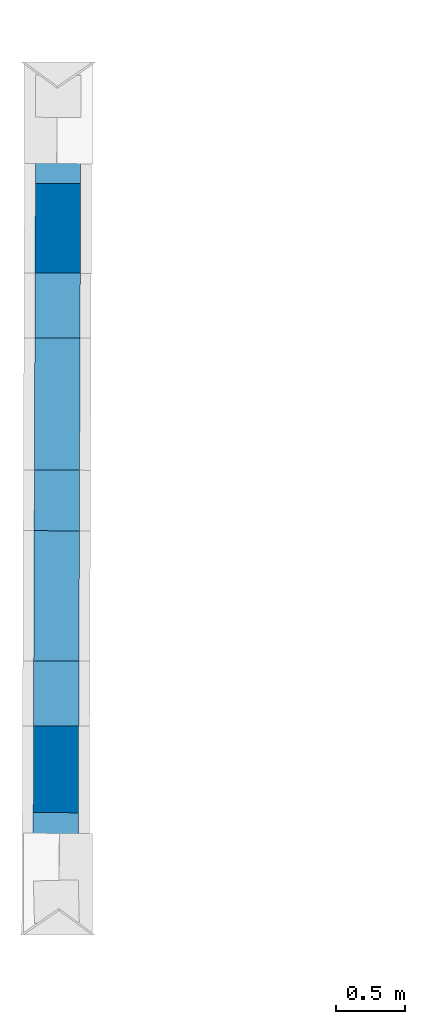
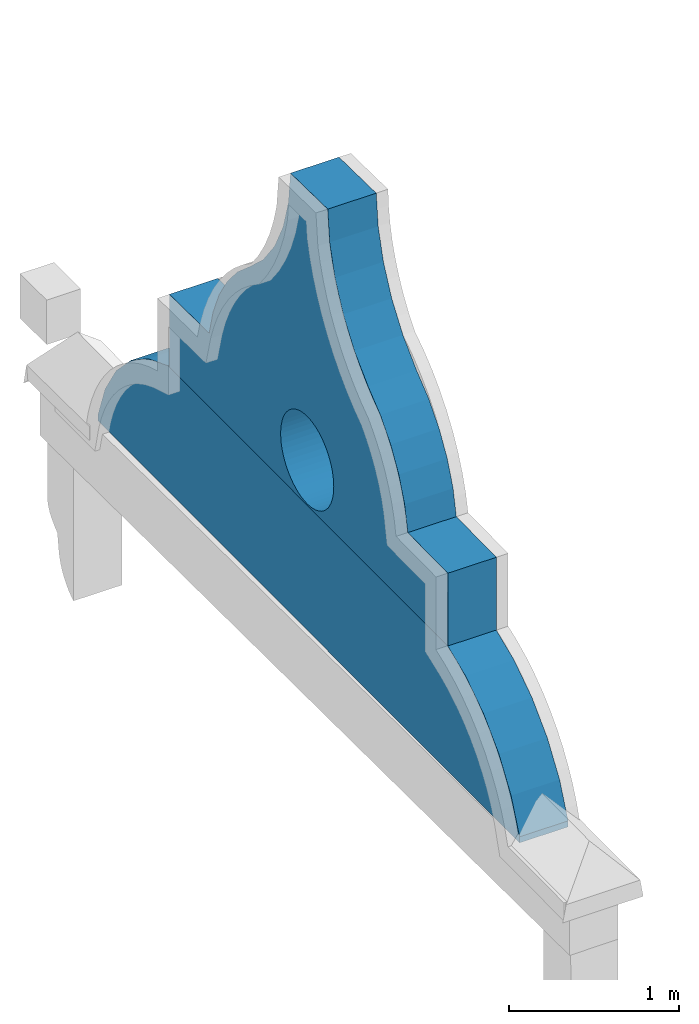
# One storey, part 8 of 39: 2 walls, 1 opening.
"""IFC2X3 building model written with IfcOpenShell, lengths in centimetres."""

from ifc_helpers import new_model, entity, si_unit, converted_unit, direction, frame, frame_2d, origin, origin_with_axes, origin_2d_with_axis, place, context, subcontext, project, spatial, polyline, circle_curve, rectangle, outline, extrude, clip, bounded_halfspace, shape, material, layer, layer_set, layer_usage, type_object, element, save


model = new_model("IFC2X3")

# Units and contexts
model_context = context("Model", 3, precision=0.0001, world=origin(), true_north=direction((0.225632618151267, 0.974212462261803, 0.0)))
body_context = subcontext(model_context, "Body", "Model", "MODEL_VIEW")
footprint_context = subcontext(model_context, "FootPrint", "Model", "MODEL_VIEW")
profile_context = subcontext(model_context, "Profile", "Model", "MODEL_VIEW")
ifc_project = project(units=[si_unit("LENGTHUNIT", "METRE", prefix="CENTI"), si_unit("AREAUNIT", "SQUARE_METRE", prefix="CENTI"), si_unit("VOLUMEUNIT", "CUBIC_METRE", prefix="CENTI"), converted_unit("PLANEANGLEUNIT", "DEGREE", entity("IfcRatioMeasure", 0.0174532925), si_unit("PLANEANGLEUNIT", "RADIAN"), dimensions=[0, 0, 0, 0, 0, 0, 0])], contexts=[model_context])

# Site, building, storey
site_placement = place(None, origin_with_axes())
site = spatial("IfcSite", under=ifc_project, at=site_placement, Name="Default Site", CompositionType="ELEMENT")
building_placement = place(site_placement, origin_with_axes())
building = spatial("IfcBuilding", under=site, at=building_placement, Name="Default Building", CompositionType="ELEMENT")
storey_placement = place(building_placement, frame((0.0, 0.0, 1088.91037418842), z_axis=(0.0, 0.0, 1.0), x_axis=(1.0, 0.0, 0.0)))
storey = spatial("IfcBuildingStorey", under=building, at=storey_placement, Name="Mezzanine", CompositionType="ELEMENT", Elevation=1088.91037418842)

# Wall
ifc_material = material(Name="<aucun>")
ifc_layer = layer(ifc_material, 33.0)
ifc_layer_set = layer_set([ifc_layer], Name="default")
ifc_layer_usage_1 = layer_usage(ifc_layer_set, "AXIS2", "POSITIVE", -16.5)
wall_type = type_object("IfcWallType", Name="default 330", PredefinedType="NOTDEFINED", material=ifc_layer_set)
wall_1_placement = place(storey_placement, frame((-1345.57775287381, -314.995326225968, 75.0616258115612), z_axis=(0.0, 0.0, 1.0), x_axis=(0.00339717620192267, 0.999994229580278, 0.0)))
solid_1 = clip(clip(clip(clip(clip(clip(clip(clip(extrude(rectangle(XDim=500.152875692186, YDim=33.0000000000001, at=origin_2d_with_axis()), frame((250.076437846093, -1.77635683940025e-13, -5.32907051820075e-13), z_axis=(0.0, 0.0, 1.0), x_axis=(1.0, -4.65773253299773e-16, 0.0)), (0.0, 0.0, 1.0), 91.0125669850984), bounded_halfspace(frame((10.1509561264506, -15.9218664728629, 27.9003535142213), z_axis=(0.918395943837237, 7.66314095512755e-16, -0.395662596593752), x_axis=(0.39566039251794, 0.00333783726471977, 0.91839082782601)), True, frame((10.1509561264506, -15.9218664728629, 27.9003535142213), z_axis=(0.0, 0.0, 1.0), x_axis=(1.0, 0.0, 0.0)), polyline([(-10.1509561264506, -0.0856346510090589), (0.0, 0.0), (-4.44089209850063e-14, 32.421866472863), (-10.1509561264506, 32.421866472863), (-10.1509561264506, -0.0856346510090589)]))), bounded_halfspace(frame((491.783989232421, -11.8587539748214, 27.8705851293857), z_axis=(-0.942363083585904, -2.63417759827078e-15, -0.334592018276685), x_axis=(-0.334590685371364, -0.00282264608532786, 0.942359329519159)), True, frame((491.783989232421, -11.8587539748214, 27.8705851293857), z_axis=(0.0, 0.0, 1.0), x_axis=(1.0, 0.0, 0.0)), polyline([(8.88178419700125e-14, -4.6412460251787), (8.36888645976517, -4.64124602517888), (8.36888645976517, 0.0706009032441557), (0.0, 0.0), (8.88178419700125e-14, -4.6412460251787)]))), bounded_halfspace(frame((491.783989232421, -11.8587539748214, 27.8705851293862), z_axis=(-0.942363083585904, -2.63417759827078e-15, -0.334592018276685), x_axis=(-0.334592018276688, 6.1034077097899e-15, 0.942363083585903)), True, frame((491.783989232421, -11.8587539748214, 27.8705851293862), z_axis=(0.0, 0.0, 1.0), x_axis=(1.0, 0.0, 0.0)), polyline([(8.88178419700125e-14, 0.0), (8.36888645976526, 0.0706009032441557), (8.36888645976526, 28.3587539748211), (8.88178419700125e-14, 28.3587539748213), (8.88178419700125e-14, 0.0)]))), bounded_halfspace(frame((24.6368279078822, 16.4999999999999, 49.0750709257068), z_axis=(0.825345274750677, -3.90312782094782e-17, -0.56462835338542), x_axis=(-0.56462835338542, 2.68882138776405e-17, -0.825345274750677)), True, frame((24.6368279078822, 16.4999999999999, 49.0750709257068), z_axis=(0.0, 0.0, 1.0), x_axis=(1.0, 0.0, 0.0)), polyline([(-14.4858717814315, -32.4218664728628), (0.0, -32.299661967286), (0.0, -1.77635683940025e-13), (-14.4858717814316, 1.77635683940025e-13), (-14.4858717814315, -32.4218664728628)]))), bounded_halfspace(frame((42.9186271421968, -15.6454345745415, 67.0746530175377), z_axis=(0.701585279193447, -2.90045765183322e-15, -0.712585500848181), x_axis=(-0.71258550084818, 2.95206567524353e-15, -0.701585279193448)), True, frame((42.9186271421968, -15.6454345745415, 67.0746530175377), z_axis=(0.0, 0.0, 1.0), x_axis=(1.0, 0.0, 0.0)), polyline([(-18.2817992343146, -0.154227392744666), (0.0, 0.0), (-4.44089209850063e-14, 32.1454345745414), (-18.2817992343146, 32.1454345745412), (-18.2817992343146, -0.154227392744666)]))), bounded_halfspace(frame((64.3161273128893, 16.4999999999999, 81.2293739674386), z_axis=(0.551720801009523, -2.03613167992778e-16, -0.834028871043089), x_axis=(-0.83402887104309, 3.0140820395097e-16, -0.551720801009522)), True, frame((64.3161273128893, 16.4999999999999, 81.2293739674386), z_axis=(0.0, 0.0, 1.0), x_axis=(1.0, 0.0, 0.0)), polyline([(-21.3975001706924, -32.1454345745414), (4.44089209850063e-14, -31.9649227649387), (0.0, 0.0), (-21.3975001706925, 0.0), (-21.3975001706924, -32.1454345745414)]))), bounded_halfspace(frame((88.0331733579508, 16.4999999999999, 91.0125669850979), z_axis=(0.381327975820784, 1.32532873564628e-15, -0.924439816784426), x_axis=(-0.924439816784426, -3.21227419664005e-15, -0.381327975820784)), True, frame((88.0331733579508, 16.4999999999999, 91.0125669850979), z_axis=(0.0, 0.0, 1.0), x_axis=(1.0, 0.0, 0.0)), polyline([(-23.7170460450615, -31.9649227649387), (0.0, -31.7648429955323), (0.0, -1.77635683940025e-13), (-23.7170460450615, 0.0), (-23.7170460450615, -31.9649227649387)]))), bounded_halfspace(frame((88.0331733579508, 16.4999999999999, 91.0125669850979), z_axis=(-0.00245696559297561, 2.50552345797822e-18, -0.999996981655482), x_axis=(-0.999996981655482, 1.57426155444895e-16, 0.00245696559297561)), True, frame((88.0331733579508, 16.4999999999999, 91.0125669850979), z_axis=(0.0, 0.0, 1.0), x_axis=(1.0, 0.0, 0.0)), polyline([(0.0, -31.7648429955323), (206.059851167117, -30.0264980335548), (206.059851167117, -1.77635683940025e-13), (0.0, -1.77635683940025e-13), (0.0, -31.7648429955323)])))
solid_2 = clip(clip(clip(clip(clip(clip(clip(clip(solid_1, bounded_halfspace(frame((294.093024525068, 16.4999999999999, 90.5062834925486), z_axis=(-0.00434547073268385, 3.42540123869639e-18, -0.999990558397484), x_axis=(-0.999990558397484, 7.9060022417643e-16, 0.0043454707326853)), True, frame((294.093024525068, 16.4999999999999, 90.5062834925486), z_axis=(0.0, 0.0, 1.0), x_axis=(1.0, 0.0, 0.0)), polyline([(-4.44089209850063e-14, -30.0264980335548), (122.926897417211, -28.9894723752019), (122.926897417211, 0.0), (4.44089209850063e-14, -1.77635683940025e-13), (-4.44089209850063e-14, -30.0264980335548)]))), bounded_halfspace(frame((417.019921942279, 16.4999999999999, 89.9721032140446), z_axis=(-0.362784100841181, 1.12518501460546e-15, -0.931873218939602), x_axis=(-0.931873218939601, 2.86663054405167e-15, 0.362784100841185)), True, frame((417.019921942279, 16.4999999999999, 89.9721032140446), z_axis=(0.0, 0.0, 1.0), x_axis=(1.0, 0.0, 0.0)), polyline([(8.88178419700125e-14, -28.9894723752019), (23.3082104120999, -28.7928415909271), (23.3082104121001, -3.5527136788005e-13), (8.88178419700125e-14, 0.0), (8.88178419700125e-14, -28.9894723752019)]))), bounded_halfspace(frame((440.328132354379, -12.292841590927, 80.898070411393), z_axis=(-0.552904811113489, -1.39016402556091e-15, -0.833244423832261), x_axis=(-0.833244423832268, -2.09251019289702e-15, 0.552904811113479)), True, frame((440.328132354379, -12.292841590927, 80.898070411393), z_axis=(0.0, 0.0, 1.0), x_axis=(1.0, 0.0, 0.0)), polyline([(8.88178419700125e-14, -1.77635683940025e-13), (20.8412860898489, 0.175819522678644), (20.841286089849, 28.7928415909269), (3.5527136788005e-13, 28.7928415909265), (8.88178419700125e-14, -1.77635683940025e-13)]))), bounded_halfspace(frame((461.169418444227, -12.1170220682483, 67.0686981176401), z_axis=(-0.717661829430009, -6.24066770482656e-16, -0.696391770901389), x_axis=(-0.696391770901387, -5.96744875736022e-16, 0.717661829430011)), True, frame((461.169418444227, -12.1170220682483, 67.0686981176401), z_axis=(0.0, 0.0, 1.0), x_axis=(1.0, 0.0, 0.0)), polyline([(8.88178419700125e-14, 0.0), (17.4182985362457, 0.146942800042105), (17.4182985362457, 28.6170220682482), (2.66453525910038e-13, 28.6170220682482), (8.88178419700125e-14, 0.0)]))), bounded_halfspace(frame((478.587716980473, 16.4999999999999, 49.1183883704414), z_axis=(-0.84949717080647, 8.40863836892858e-15, -0.527593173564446), x_axis=(-0.527593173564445, -1.87697080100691e-15, 0.84949717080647)), True, frame((478.587716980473, 16.4999999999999, 49.1183883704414), z_axis=(0.0, 0.0, 1.0), x_axis=(1.0, 0.0, 0.0)), polyline([(8.88178419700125e-14, -28.4700792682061), (13.1962722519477, -28.3587539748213), (13.1962722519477, 0.0), (8.88178419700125e-14, 0.0), (8.88178419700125e-14, -28.4700792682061)]))), bounded_halfspace(frame((10.1509561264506, -16.5000000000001, 27.9003535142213), z_axis=(0.918395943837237, 7.66314095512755e-16, -0.395662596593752), x_axis=(0.395662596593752, 3.2981430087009e-16, 0.918395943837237)), True, frame((10.1509561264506, -16.5000000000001, 27.9003535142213), z_axis=(0.0, 0.0, 1.0), x_axis=(1.0, 0.0, 0.0)), polyline([(-10.1509561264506, 3.5527136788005e-13), (0.0, 0.0), (0.0, 0.578133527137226), (-10.1509561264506, 0.492498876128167), (-10.1509561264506, 3.5527136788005e-13)]))), bounded_halfspace(frame((24.6368279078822, -16.4999999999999, 49.0750709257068), z_axis=(0.825345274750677, -3.90312782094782e-17, -0.56462835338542), x_axis=(0.56462835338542, 6.89704370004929e-15, 0.825345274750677)), True, frame((24.6368279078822, -16.4999999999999, 49.0750709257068), z_axis=(0.0, 0.0, 1.0), x_axis=(1.0, 0.0, 0.0)), polyline([(-14.4858717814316, -1.77635683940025e-13), (0.0, 0.0), (4.44089209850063e-14, 0.70033803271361), (-14.4858717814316, 0.578133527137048), (-14.4858717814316, -1.77635683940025e-13)]))), bounded_halfspace(frame((42.9186271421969, -15.6454345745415, 67.0746530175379), z_axis=(0.701585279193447, -2.90045765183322e-15, -0.712585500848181), x_axis=(0.712585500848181, -2.94599414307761e-15, 0.701585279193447)), True, frame((42.9186271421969, -15.6454345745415, 67.0746530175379), z_axis=(0.0, 0.0, 1.0), x_axis=(1.0, 0.0, 0.0)), polyline([(-18.2817992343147, -0.854565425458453), (-4.44089209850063e-14, -0.854565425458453), (0.0, 0.0), (-18.2817992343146, -0.154227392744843), (-18.2817992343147, -0.854565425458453)])))
element("IfcWallStandardCase", 1, at=wall_1_placement, inside=storey, type_object=wall_type, material=ifc_layer_usage_1, Name="Enveloppe 965017", context=body_context, shape_type="Clipping", body=[
    clip(clip(clip(clip(clip(clip(clip(clip(solid_2, bounded_halfspace(frame((64.3161273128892, -16.4999999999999, 81.2293739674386), z_axis=(0.551720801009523, -2.03613167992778e-16, -0.834028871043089), x_axis=(0.834028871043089, -3.12683906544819e-16, 0.551720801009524)), True, frame((64.3161273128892, -16.4999999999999, 81.2293739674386), z_axis=(0.0, 0.0, 1.0), x_axis=(1.0, 0.0, 0.0)), polyline([(-21.3975001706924, 0.0), (0.0, 0.0), (8.88178419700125e-14, 1.03507723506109), (-21.3975001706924, 0.854565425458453), (-21.3975001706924, 0.0)]))), bounded_halfspace(frame((88.0331733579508, -15.2648429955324, 91.0125669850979), z_axis=(0.381327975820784, 1.32532873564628e-15, -0.924439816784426), x_axis=(-0.924411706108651, -0.00779844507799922, -0.381316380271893)), True, frame((88.0331733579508, -15.2648429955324, 91.0125669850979), z_axis=(0.0, 0.0, 1.0), x_axis=(1.0, 0.0, 0.0)), polyline([(-23.7170460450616, -1.23515700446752), (0.0, -1.23515700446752), (4.44089209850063e-14, 0.0), (-23.7170460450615, -0.200079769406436), (-23.7170460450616, -1.23515700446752)]))), bounded_halfspace(frame((88.0331733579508, -16.4999999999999, 91.0125669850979), z_axis=(-0.00245696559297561, 2.50552345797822e-18, -0.999996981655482), x_axis=(0.999996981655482, -1.01958372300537e-15, -0.00245696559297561)), True, frame((88.0331733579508, -16.4999999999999, 91.0125669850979), z_axis=(0.0, 0.0, 1.0), x_axis=(1.0, 0.0, 0.0)), polyline([(0.0, 0.0), (206.059851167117, -1.77635683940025e-13), (206.059851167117, 2.97350196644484), (4.44089209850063e-14, 1.23515700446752), (0.0, 0.0)]))), bounded_halfspace(frame((294.093024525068, -16.5000000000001, 90.5062834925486), z_axis=(-0.00434547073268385, 3.42540123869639e-18, -0.999990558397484), x_axis=(0.999990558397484, -7.9060022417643e-16, -0.0043454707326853)), True, frame((294.093024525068, -16.5000000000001, 90.5062834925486), z_axis=(0.0, 0.0, 1.0), x_axis=(1.0, 0.0, 0.0)), polyline([(4.44089209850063e-14, 0.0), (122.926897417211, -3.5527136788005e-13), (122.926897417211, 4.01052762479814), (4.44089209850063e-14, 2.97350196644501), (4.44089209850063e-14, 0.0)]))), bounded_halfspace(frame((417.019921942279, -12.4894723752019, 89.9721032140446), z_axis=(-0.362784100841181, 1.12518501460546e-15, -0.931873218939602), x_axis=(-0.931844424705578, -0.00786114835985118, 0.362772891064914)), True, frame((417.019921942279, -12.4894723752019, 89.9721032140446), z_axis=(0.0, 0.0, 1.0), x_axis=(1.0, 0.0, 0.0)), polyline([(0.0, -4.0105276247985), (23.3082104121, -4.01052762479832), (23.3082104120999, 0.196630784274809), (8.88178419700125e-14, 0.0), (0.0, -4.0105276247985)]))), bounded_halfspace(frame((440.328132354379, -12.292841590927, 80.898070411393), z_axis=(-0.552904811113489, -1.39016402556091e-15, -0.833244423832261), x_axis=(-0.833223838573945, -0.00702917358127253, 0.552891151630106)), True, frame((440.328132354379, -12.292841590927, 80.898070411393), z_axis=(0.0, 0.0, 1.0), x_axis=(1.0, 0.0, 0.0)), polyline([(1.77635683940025e-13, -4.20715840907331), (20.8412860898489, -4.20715840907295), (20.8412860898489, 0.175819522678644), (8.88178419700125e-14, -1.77635683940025e-13), (1.77635683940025e-13, -4.20715840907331)]))), bounded_halfspace(frame((461.169418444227, -12.1170220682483, 67.0686981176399), z_axis=(-0.717661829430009, -6.24066770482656e-16, -0.696391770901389), x_axis=(-0.696379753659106, -0.00587474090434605, 0.717649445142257)), True, frame((461.169418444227, -12.1170220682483, 67.0686981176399), z_axis=(0.0, 0.0, 1.0), x_axis=(1.0, 0.0, 0.0)), polyline([(8.88178419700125e-14, -4.3829779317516), (17.4182985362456, -4.38297793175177), (17.4182985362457, 0.146942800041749), (8.88178419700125e-14, 0.0), (8.88178419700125e-14, -4.3829779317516)]))), bounded_halfspace(frame((478.587716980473, -11.9700792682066, 49.1183883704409), z_axis=(-0.84949717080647, 8.40863836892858e-15, -0.527593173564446), x_axis=(-0.527587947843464, -0.00445079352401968, 0.84948875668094)), True, frame((478.587716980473, -11.9700792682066, 49.1183883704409), z_axis=(0.0, 0.0, 1.0), x_axis=(1.0, 0.0, 0.0)), polyline([(0.0, -4.52992073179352), (13.1962722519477, -4.52992073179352), (13.1962722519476, 0.111325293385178), (8.88178419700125e-14, 0.0), (0.0, -4.52992073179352)]))),
])

# Wall, opening
ifc_layer_usage_2 = layer_usage(ifc_layer_set, "AXIS2", "POSITIVE", -16.5)
wall_2_placement = place(storey_placement, frame((-1345.28841599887, -229.826000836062, 165.0), z_axis=(0.0, 0.0, 1.0), x_axis=(0.00339717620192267, 0.999994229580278, 0.0)))
solid_3 = clip(clip(clip(clip(clip(clip(clip(clip(extrude(rectangle(XDim=330.392397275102, YDim=33.0000000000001, at=origin_2d_with_axis()), frame((165.196198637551, -1.77635683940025e-13, 0.0), z_axis=(0.0, 0.0, 1.0), x_axis=(1.0, -1.36782946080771e-15, 0.0)), (0.0, 0.0, 1.0), 227.900230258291), bounded_halfspace(frame((47.4951458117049, -16.5000000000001, 52.7933686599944), z_axis=(0.00845512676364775, -1.02186054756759e-17, -0.999964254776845), x_axis=(0.999964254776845, -1.20606649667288e-15, 0.00845512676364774)), True, frame((47.4951458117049, -16.5000000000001, 52.7933686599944), z_axis=(0.0, 0.0, 1.0), x_axis=(1.0, 0.0, 0.0)), polyline([(-47.4951458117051, 3.5527136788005e-13), (0.0, 0.0), (2.22044604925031e-14, 33.0000000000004), (-47.4951458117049, 33.0000000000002), (-47.4951458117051, 3.5527136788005e-13)]))), bounded_halfspace(frame((283.062579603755, 16.4999999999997, 53.2006430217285), z_axis=(-0.0170874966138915, 1.68051336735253e-18, -0.999853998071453), x_axis=(-0.999853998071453, 8.19656842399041e-17, 0.0170874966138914)), True, frame((283.062579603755, 16.4999999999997, 53.2006430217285), z_axis=(0.0, 0.0, 1.0), x_axis=(1.0, 0.0, 0.0)), polyline([(0.0, -32.9999999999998), (47.329817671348, -33.0000000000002), (47.3298176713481, 1.77635683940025e-13), (4.44089209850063e-14, 1.77635683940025e-13), (0.0, -32.9999999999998)]))), bounded_halfspace(frame((51.3294557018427, 16.5000000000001, 70.89659254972), z_axis=(0.978297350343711, 2.17972341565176e-14, -0.207205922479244), x_axis=(0.207205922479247, -4.99079944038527e-15, 0.97829735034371)), True, frame((51.3294557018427, 16.5000000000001, 70.89659254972), z_axis=(0.0, 0.0, 1.0), x_axis=(1.0, 0.0, 0.0)), polyline([(-3.83430989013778, -33.0000000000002), (-2.22044604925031e-14, -33.0), (2.22044604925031e-14, 1.77635683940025e-13), (-3.83430989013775, 1.77635683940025e-13), (-3.83430989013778, -33.0000000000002)]))), bounded_halfspace(frame((58.1924685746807, -16.5000000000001, 88.0816937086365), z_axis=(0.92868204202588, -1.91860416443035e-15, -0.370876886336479), x_axis=(0.370876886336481, -7.57857318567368e-16, 0.928682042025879)), True, frame((58.1924685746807, -16.5000000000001, 88.0816937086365), z_axis=(0.0, 0.0, 1.0), x_axis=(1.0, 0.0, 0.0)), polyline([(-6.86301287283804, 1.77635683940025e-13), (0.0, 1.77635683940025e-13), (4.44089209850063e-14, 33.0), (-6.86301287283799, 33.0000000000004), (-6.86301287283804, 1.77635683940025e-13)]))), bounded_halfspace(frame((67.8834422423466, -16.5000000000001, 103.84601027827), z_axis=(0.851902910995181, -4.61436444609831e-16, -0.523699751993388), x_axis=(0.523699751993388, -2.83844128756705e-16, 0.851902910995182)), True, frame((67.8834422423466, -16.5000000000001, 103.84601027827), z_axis=(0.0, 0.0, 1.0), x_axis=(1.0, 0.0, 0.0)), polyline([(-9.69097366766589, 1.77635683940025e-13), (0.0, 1.77635683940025e-13), (4.44089209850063e-14, 33.0000000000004), (-9.69097366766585, 33.0), (-9.69097366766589, 1.77635683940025e-13)]))), bounded_halfspace(frame((80.1189170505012, -16.5000000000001, 117.728438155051), z_axis=(0.750205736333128, -8.64586180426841e-15, -0.661204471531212), x_axis=(-0.661204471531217, -1.97975316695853e-15, -0.750205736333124)), True, frame((80.1189170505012, -16.5000000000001, 117.728438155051), z_axis=(0.0, 0.0, 1.0), x_axis=(1.0, 0.0, 0.0)), polyline([(-12.2354748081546, 1.77635683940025e-13), (0.0, 1.77635683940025e-13), (4.44089209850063e-14, 33.0000000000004), (-12.2354748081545, 33.0000000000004), (-12.2354748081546, 1.77635683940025e-13)]))), bounded_halfspace(frame((94.5410070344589, 16.4999999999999, 129.322918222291), z_axis=(0.626565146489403, 4.79997985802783e-15, -0.779369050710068), x_axis=(-0.779369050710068, 3.63337832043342e-15, -0.626565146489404)), True, frame((94.5410070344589, 16.4999999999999, 129.322918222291), z_axis=(0.0, 0.0, 1.0), x_axis=(1.0, 0.0, 0.0)), polyline([(-14.4220899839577, -32.9999999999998), (0.0, -32.9999999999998), (0.0, 0.0), (-14.4220899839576, 3.5527136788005e-13), (-14.4220899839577, -32.9999999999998)]))), bounded_halfspace(frame((110.809717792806, -16.5000000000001, 145.024545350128), z_axis=(0.694455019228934, -8.75601674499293e-16, -0.71953611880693), x_axis=(0.719536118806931, -9.02923569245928e-16, 0.694455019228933)), True, frame((110.809717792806, -16.5000000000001, 145.024545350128), z_axis=(0.0, 0.0, 1.0), x_axis=(1.0, 0.0, 0.0)), polyline([(-16.2687107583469, 1.77635683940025e-13), (0.0, 1.77635683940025e-13), (2.22044604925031e-14, 33.0), (-16.2687107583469, 33.0), (-16.2687107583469, 1.77635683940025e-13)])))
solid_4 = clip(clip(clip(clip(clip(clip(clip(clip(solid_3, bounded_halfspace(frame((124.089487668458, -16.5000000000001, 163.323718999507), z_axis=(0.809339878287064, -8.60292739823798e-15, -0.587340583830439), x_axis=(0.587340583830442, 1.61025706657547e-15, 0.809339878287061)), True, frame((124.089487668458, -16.5000000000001, 163.323718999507), z_axis=(0.0, 0.0, 1.0), x_axis=(1.0, 0.0, 0.0)), polyline([(-13.2797698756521, 1.77635683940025e-13), (0.0, 1.77635683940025e-13), (2.22044604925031e-14, 33.0), (-13.2797698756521, 33.0), (-13.2797698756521, 1.77635683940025e-13)]))), bounded_halfspace(frame((133.972970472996, 16.4999999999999, 183.659126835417), z_axis=(0.899398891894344, 9.82590744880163e-15, -0.437128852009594), x_axis=(-0.437128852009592, 3.07761628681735e-15, -0.899398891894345)), True, frame((133.972970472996, 16.4999999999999, 183.659126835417), z_axis=(0.0, 0.0, 1.0), x_axis=(1.0, 0.0, 0.0)), polyline([(-9.88348280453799, -32.9999999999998), (-2.22044604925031e-14, -32.9999999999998), (2.22044604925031e-14, 1.77635683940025e-13), (-9.88348280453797, 0.0), (-9.88348280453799, -32.9999999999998)]))), bounded_halfspace(frame((140.156998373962, 16.5000000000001, 205.406996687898), z_axis=(0.961869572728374, 5.56239082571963e-15, -0.273508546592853), x_axis=(0.27350854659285, 1.58488673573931e-15, 0.961869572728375)), True, frame((140.156998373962, 16.5000000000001, 205.406996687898), z_axis=(0.0, 0.0, 1.0), x_axis=(1.0, 0.0, 0.0)), polyline([(-6.18402790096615, -33.0), (4.44089209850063e-14, -33.0000000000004), (2.22044604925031e-14, 1.77635683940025e-13), (-6.1840279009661, 0.0), (-6.18402790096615, -33.0)]))), bounded_halfspace(frame((142.451881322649, 16.4999999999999, 227.900230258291), z_axis=(0.994835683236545, 4.26134821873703e-15, -0.101498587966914), x_axis=(0.101498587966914, 4.34765071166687e-16, 0.994835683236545)), True, frame((142.451881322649, 16.4999999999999, 227.900230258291), z_axis=(0.0, 0.0, 1.0), x_axis=(1.0, 0.0, 0.0)), polyline([(-2.29488294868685, -33.0000000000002), (0.0, -32.9999999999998), (0.0, 0.0), (-2.29488294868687, 3.5527136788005e-13), (-2.29488294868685, -33.0000000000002)]))), bounded_halfspace(frame((142.451881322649, 16.4999999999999, 227.90023025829), z_axis=(-0.0211836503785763, 4.20805968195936e-17, -0.999775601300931), x_axis=(-0.999775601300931, 1.98539101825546e-15, 0.0211836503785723)), True, frame((142.451881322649, 16.4999999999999, 227.90023025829), z_axis=(0.0, 0.0, 1.0), x_axis=(1.0, 0.0, 0.0)), polyline([(0.0, -32.9999999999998), (44.2276534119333, -33.0000000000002), (44.2276534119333, 1.77635683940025e-13), (0.0, 0.0), (0.0, -32.9999999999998)]))), bounded_halfspace(frame((186.679534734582, 16.4999999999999, 226.963116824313), z_axis=(-0.994388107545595, 8.86790640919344e-15, -0.105793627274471), x_axis=(0.105793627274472, -9.40979065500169e-16, -0.994388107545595)), True, frame((186.679534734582, 16.4999999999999, 226.963116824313), z_axis=(0.0, 0.0, 1.0), x_axis=(1.0, 0.0, 0.0)), polyline([(-4.44089209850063e-14, -33.0000000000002), (2.37773630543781, -33.0), (2.37773630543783, 1.77635683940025e-13), (0.0, 1.77635683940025e-13), (-4.44089209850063e-14, -33.0000000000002)]))), bounded_halfspace(frame((189.05727104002, 16.4999999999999, 204.614013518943), z_axis=(-0.959371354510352, 2.51144591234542e-15, -0.282146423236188), x_axis=(-0.282146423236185, 7.38666940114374e-16, 0.959371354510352)), True, frame((189.05727104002, 16.4999999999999, 204.614013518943), z_axis=(0.0, 0.0, 1.0), x_axis=(1.0, 0.0, 0.0)), polyline([(0.0, -33.0), (6.34130628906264, -33.0), (6.34130628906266, 1.77635683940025e-13), (2.22044604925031e-14, 1.77635683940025e-13), (0.0, -33.0)]))), bounded_halfspace(frame((195.398577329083, 16.4999999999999, 183.051919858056), z_axis=(-0.893341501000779, 3.98249141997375e-15, -0.449378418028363), x_axis=(-0.449378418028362, 2.00577401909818e-15, 0.89334150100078)), True, frame((195.398577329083, 16.4999999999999, 183.051919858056), z_axis=(0.0, 0.0, 1.0), x_axis=(1.0, 0.0, 0.0)), polyline([(0.0, -33.0), (10.0998841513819, -33.0000000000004), (10.0998841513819, 1.77635683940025e-13), (2.22044604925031e-14, 1.77635683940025e-13), (0.0, -33.0)])))
wall_2 = element("IfcWallStandardCase", 2, at=wall_2_placement, inside=storey, type_object=wall_type, material=ifc_layer_usage_2, Name="Enveloppe 969142", context=body_context, shape_type="Clipping", body=[
    clip(clip(clip(clip(clip(clip(clip(solid_4, bounded_halfspace(frame((205.498461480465, -16.5000000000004, 162.973862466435), z_axis=(-0.798433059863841, -5.834308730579e-15, -0.602083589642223), x_axis=(0.602083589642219, 4.40316186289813e-15, -0.798433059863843)), True, frame((205.498461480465, -16.5000000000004, 162.973862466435), z_axis=(0.0, 0.0, 1.0), x_axis=(1.0, 0.0, 0.0)), polyline([(4.44089209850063e-14, 0.0), (13.531968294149, 1.77635683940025e-13), (13.531968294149, 33.0000000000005), (4.44089209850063e-14, 33.0000000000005), (4.44089209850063e-14, 0.0)]))), bounded_halfspace(frame((219.030429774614, -16.5000000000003, 145.028894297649), z_axis=(-0.677714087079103, 9.37618038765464e-16, -0.735325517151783), x_axis=(0.735325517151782, -1.02565525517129e-15, -0.677714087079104)), True, frame((219.030429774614, -16.5000000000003, 145.028894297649), z_axis=(0.0, 0.0, 1.0), x_axis=(1.0, 0.0, 0.0)), polyline([(0.0, 0.0), (16.5266115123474, 1.77635683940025e-13), (16.5266115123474, 33.0000000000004), (0.0, 33.0000000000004), (0.0, 0.0)]))), bounded_halfspace(frame((235.557041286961, 16.4999999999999, 129.797113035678), z_axis=(-0.654241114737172, 2.68882138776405e-15, -0.756286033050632), x_axis=(-0.756286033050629, 3.09821612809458e-15, 0.654241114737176)), True, frame((235.557041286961, 16.4999999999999, 129.797113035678), z_axis=(0.0, 0.0, 1.0), x_axis=(1.0, 0.0, 0.0)), polyline([(0.0, -33.0), (13.9501433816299, -33.0000000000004), (13.9501433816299, 1.77635683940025e-13), (0.0, 1.77635683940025e-13), (0.0, -33.0)]))), bounded_halfspace(frame((249.507184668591, 16.4999999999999, 117.729248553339), z_axis=(-0.760716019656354, -4.96998275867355e-16, -0.649084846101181), x_axis=(-0.649084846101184, -4.1589995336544e-16, 0.760716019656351)), True, frame((249.507184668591, 16.4999999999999, 117.729248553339), z_axis=(0.0, 0.0, 1.0), x_axis=(1.0, 0.0, 0.0)), polyline([(0.0, -33.0000000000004), (11.9727540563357, -33.0), (11.9727540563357, 1.77635683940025e-13), (4.44089209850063e-14, 1.77635683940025e-13), (0.0, -33.0000000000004)]))), bounded_halfspace(frame((261.479938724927, -16.5000000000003, 103.697391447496), z_axis=(-0.849824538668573, -2.44249065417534e-15, -0.527065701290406), x_axis=(-0.527065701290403, -1.52026828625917e-15, 0.849824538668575)), True, frame((261.479938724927, -16.5000000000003, 103.697391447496), z_axis=(0.0, 0.0, 1.0), x_axis=(1.0, 0.0, 0.0)), polyline([(4.44089209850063e-14, 1.77635683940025e-13), (9.72203873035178, 1.77635683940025e-13), (9.72203873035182, 33.0), (8.88178419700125e-14, 33.0000000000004), (4.44089209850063e-14, 1.77635683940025e-13)]))), bounded_halfspace(frame((271.201977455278, -16.5000000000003, 88.0218749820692), z_axis=(-0.919532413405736, 2.30761590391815e-15, -0.393014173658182), x_axis=(0.393014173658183, -9.80118763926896e-16, -0.919532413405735)), True, frame((271.201977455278, -16.5000000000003, 88.0218749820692), z_axis=(0.0, 0.0, 1.0), x_axis=(1.0, 0.0, 0.0)), polyline([(0.0, 1.77635683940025e-13), (7.2493789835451, 1.77635683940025e-13), (7.2493789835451, 33.0000000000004), (4.44089209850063e-14, 33.0), (0.0, 1.77635683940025e-13)]))), bounded_halfspace(frame((278.451356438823, 16.4999999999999, 71.0605555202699), z_axis=(-0.968248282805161, 2.22421907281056e-14, -0.249990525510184), x_axis=(0.249990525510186, -5.74475363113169e-15, -0.96824828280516)), True, frame((278.451356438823, 16.4999999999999, 71.0605555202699), z_axis=(0.0, 0.0, 1.0), x_axis=(1.0, 0.0, 0.0)), polyline([(4.44089209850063e-14, -33.0), (4.61122316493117, -33.0), (4.61122316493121, 0.0), (4.44089209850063e-14, 1.77635683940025e-13), (4.44089209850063e-14, -33.0)]))),
])
opening_placement = place(wall_2_placement, frame((135.288332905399, 0.0, 32.4999999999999), z_axis=(0.0, 0.0, 1.0), x_axis=(-1.0, 8.32667268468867e-16, 0.0)))
cartesian_point = entity("IfcCartesianPoint", [-63.0000000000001, -16.5000000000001])
element("IfcOpeningElement", 3, at=opening_placement, cuts=wall_2, Name="Baie 973536", ObjectType="Opening", shapes=[
    shape(body_context, "Body", "SweptSolid", [extrude(outline(circle_curve(frame_2d((31.5000000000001, -1.77635683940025e-13), x_axis=(1.0, 0.0)), 31.5)), frame((0.0, -26.5, 0.0), z_axis=(0.0, 1.0, 0.0), x_axis=(-1.0, 0.0, 0.0)), (0.0, 0.0, 1.0), 53.0)]),
    shape(profile_context, "Profile", "GeometricCurveSet", [entity("IfcGeometricCurveSet", [entity("IfcCircle", entity("IfcAxis2Placement3D", entity("IfcCartesianPoint", [-31.5000000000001, 1.77635683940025e-13, -1.77635683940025e-13]), entity("IfcDirection", [0.0, 1.0, 5.63922806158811e-15]), entity("IfcDirection", [-1.0, 0.0, 0.0])), 31.5)])]),
    shape(footprint_context, "FootPrint", "GeometricCurveSet", [entity("IfcGeometricCurveSet", [entity("IfcPolyline", [cartesian_point, entity("IfcCartesianPoint", [-8.88178419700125e-14, -16.4999999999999]), entity("IfcCartesianPoint", [-9.99200722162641e-14, 16.5000000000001]), entity("IfcCartesianPoint", [-63.0000000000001, 16.5000000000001]), cartesian_point])])]),
])

save(model, "model.ifc")
